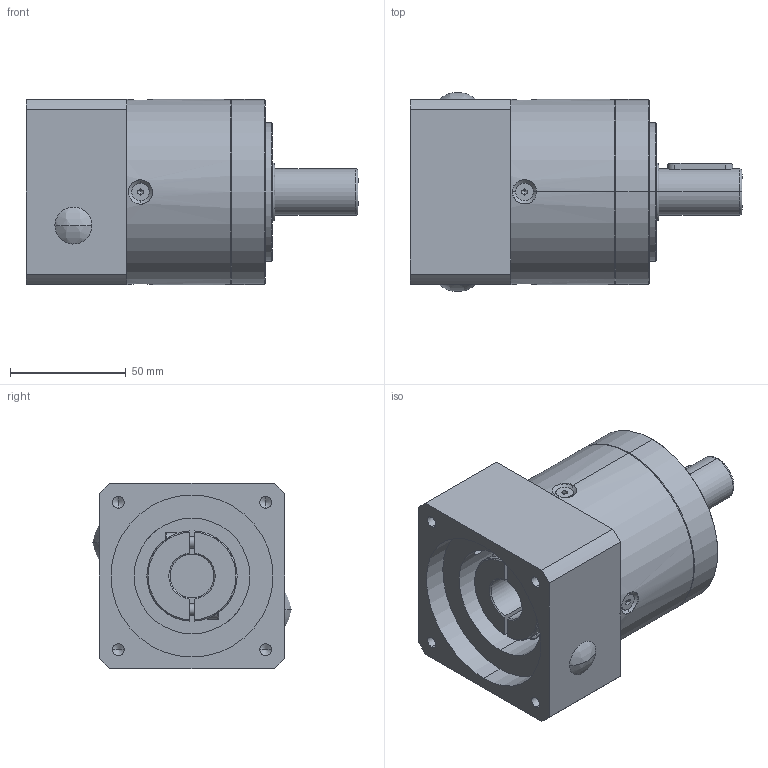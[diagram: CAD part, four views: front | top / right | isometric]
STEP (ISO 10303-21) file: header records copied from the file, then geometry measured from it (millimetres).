
FILE_DESCRIPTION (( 'STEP AP214' ), '1' );
FILE_NAME ('PLE-080-L1-S2-P2 19-70-90-M6.STEP', '2023-08-21T03:03:05', ( '微软用户' ), ( '微软中国' ), 'SwSTEP 2.0', 'SolidWorks 2018', '' );
FILE_SCHEMA (( 'AUTOMOTIVE_DESIGN' ));
Length unit declared in the file: millimetre
Products named in the file (8): PLE-080-L1-S2-P2 19-70-90-M6; PL80怀堤埴傷裔-俋倛; PLE-080黑裔; PF80薊粣ん-俋倛19; hexagon socket head cap screws gb_GB_FASTENER_SCREWS_HSHCS M5X16-N; PLE-080输入端盖-外形70-M6-90; hexagon socket countersunk head screws gb_GB_FASTENER_SCREWS_HSCHS M4X12-N; PLE-080一级齿圈-外形
Assembly tree (12 placements, depth 2):
  PLE-080-L1-S2-P2 19-70-90-M6
    PL80怀堤埴傷裔-俋倛
    PLE-080一级齿圈-外形
    PLE-080输入端盖-外形70-M6-90
    PF80薊粣ん-俋倛19
    hexagon socket countersunk head screws gb_GB_FASTENER_SCREWS_HSCHS M4X12-N  x4
    PLE-080黑裔  x2
    hexagon socket head cap screws gb_GB_FASTENER_SCREWS_HSHCS M5X16-N  x2
Bounding box: 143.5 x 85.92 x 80 mm (x, y, z)
Volume: 384940.3 mm3; surface area: 87790.8 mm2
Topology: 13 solids, 13 shells, 368 faces, 872 edges, 523 vertices
Faces by surface type: plane 135, cylinder 126, cone 77, bspline 30
Entity records: 8556 total; most frequent: CARTESIAN_POINT 2534, DIRECTION 1241, ORIENTED_EDGE 1136, EDGE_CURVE 568, AXIS2_PLACEMENT_3D 490, VERTEX_POINT 359, EDGE_LOOP 289, VECTOR 261
